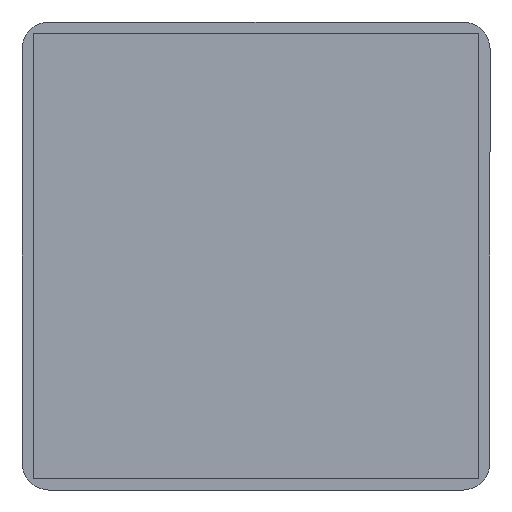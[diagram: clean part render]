
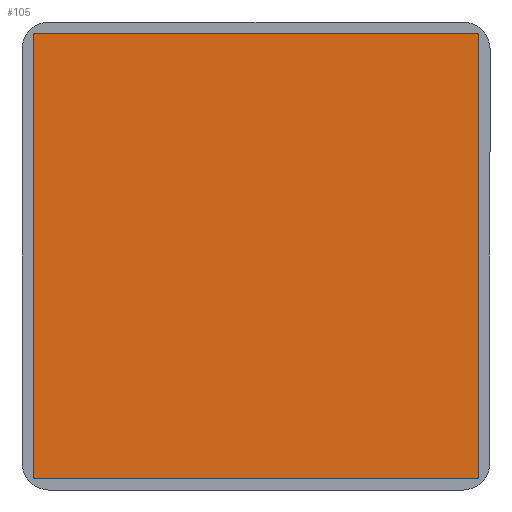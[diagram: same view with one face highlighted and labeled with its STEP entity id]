
A CAD part, front view. The second image highlights one B-rep face of the part: STEP entity #105.
In plain terms, the highlighted planar face has unit normal (0, -1, 0).
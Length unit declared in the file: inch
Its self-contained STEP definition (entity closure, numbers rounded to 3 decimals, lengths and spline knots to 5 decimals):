
#105 = ADVANCED_FACE ( 'NONE', ( #877 ), #5270, .T. ) ;
#624 = EDGE_CURVE ( 'NONE', #8999, #2280, #4901, .T. ) ;
#855 = AXIS2_PLACEMENT_3D ( 'NONE', #10529, #2158, #9241 ) ;
#877 = FACE_OUTER_BOUND ( 'NONE', #9961, .T. ) ;
#1143 = ORIENTED_EDGE ( 'NONE', *, *, #10196, .T. ) ;
#1171 = CARTESIAN_POINT ( 'NONE',  ( 0.64961, -0.005, 0.64961 ) ) ;
#1565 = ORIENTED_EDGE ( 'NONE', *, *, #8420, .T. ) ;
#2130 = DIRECTION ( 'NONE',  ( -1., 0., 0. ) ) ;
#2158 = DIRECTION ( 'NONE',  ( 0., -1., 0. ) ) ;
#2280 = VERTEX_POINT ( 'NONE', #9078 ) ;
#2413 = VECTOR ( 'NONE', #3475, 39.37008 ) ;
#2644 = CARTESIAN_POINT ( 'NONE',  ( -0.64961, -0.005, -0.64961 ) ) ;
#3475 = DIRECTION ( 'NONE',  ( 0., 0., 1. ) ) ;
#3667 = DIRECTION ( 'NONE',  ( 1., 0., 0. ) ) ;
#3838 = DIRECTION ( 'NONE',  ( 0., 0., -1. ) ) ;
#4901 = LINE ( 'NONE', #9943, #6706 ) ;
#5270 = PLANE ( 'NONE',  #855 ) ;
#5477 = VECTOR ( 'NONE', #3838, 39.37008 ) ;
#6273 = LINE ( 'NONE', #11336, #7839 ) ;
#6706 = VECTOR ( 'NONE', #3667, 39.37008 ) ;
#7551 = ORIENTED_EDGE ( 'NONE', *, *, #11166, .T. ) ;
#7729 = VERTEX_POINT ( 'NONE', #1171 ) ;
#7839 = VECTOR ( 'NONE', #2130, 39.37008 ) ;
#8420 = EDGE_CURVE ( 'NONE', #2280, #7729, #12800, .T. ) ;
#8999 = VERTEX_POINT ( 'NONE', #2644 ) ;
#9035 = LINE ( 'NONE', #13170, #5477 ) ;
#9078 = CARTESIAN_POINT ( 'NONE',  ( 0.64961, -0.005, -0.64961 ) ) ;
#9241 = DIRECTION ( 'NONE',  ( 0., 0., 1. ) ) ;
#9943 = CARTESIAN_POINT ( 'NONE',  ( 0.64961, -0.005, -0.64961 ) ) ;
#9961 = EDGE_LOOP ( 'NONE', ( #1565, #1143, #7551, #13367 ) ) ;
#10031 = CARTESIAN_POINT ( 'NONE',  ( -0.64961, -0.005, 0.64961 ) ) ;
#10174 = VERTEX_POINT ( 'NONE', #10031 ) ;
#10196 = EDGE_CURVE ( 'NONE', #7729, #10174, #6273, .T. ) ;
#10529 = CARTESIAN_POINT ( 'NONE',  ( 0.64961, -0.005, 0.64961 ) ) ;
#11166 = EDGE_CURVE ( 'NONE', #10174, #8999, #9035, .T. ) ;
#11336 = CARTESIAN_POINT ( 'NONE',  ( 0.64961, -0.005, 0.64961 ) ) ;
#11613 = CARTESIAN_POINT ( 'NONE',  ( 0.64961, -0.005, -0.64961 ) ) ;
#12800 = LINE ( 'NONE', #11613, #2413 ) ;
#13170 = CARTESIAN_POINT ( 'NONE',  ( -0.64961, -0.005, -0.64961 ) ) ;
#13367 = ORIENTED_EDGE ( 'NONE', *, *, #624, .T. ) ;
